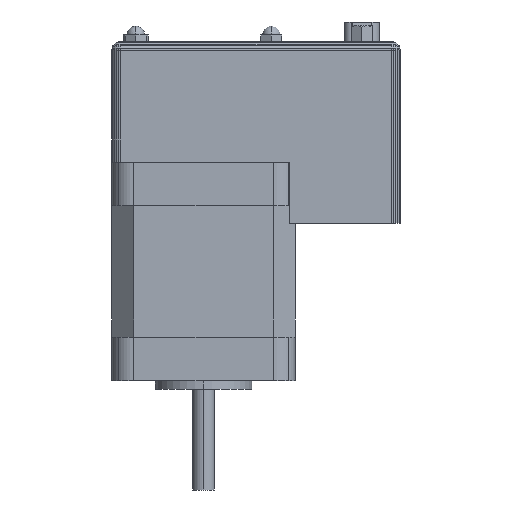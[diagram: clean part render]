
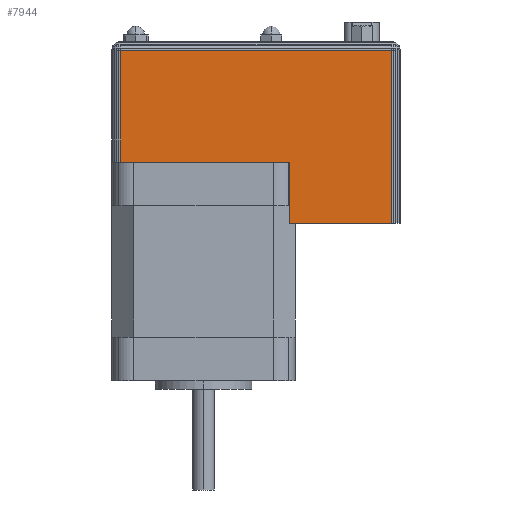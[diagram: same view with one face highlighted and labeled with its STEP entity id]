
A CAD part, left-side view. The second image highlights one B-rep face of the part: STEP entity #7944.
In plain terms, the highlighted planar face has unit normal (-1, 0, 0).
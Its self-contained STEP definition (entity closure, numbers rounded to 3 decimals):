
#7944=ADVANCED_FACE('',(#15018),#15019,.F.);
#15018=FACE_OUTER_BOUND('',#31377,.T.);
#15019=PLANE('',#31378);
#31377=EDGE_LOOP('',(#43701,#43702,#43703,#43704,#43705,#43706));
#31378=AXIS2_PLACEMENT_3D('',#43707,#43708,#43709);
#43701=ORIENTED_EDGE('',*,*,#47703,.T.);
#43702=ORIENTED_EDGE('',*,*,#48138,.F.);
#43703=ORIENTED_EDGE('',*,*,#48035,.F.);
#43704=ORIENTED_EDGE('',*,*,#47936,.F.);
#43705=ORIENTED_EDGE('',*,*,#47878,.F.);
#43706=ORIENTED_EDGE('',*,*,#47442,.T.);
#43707=CARTESIAN_POINT('',(-21.0,-14.666,22.466));
#43708=DIRECTION('',(1.0,0.0,0.0));
#43709=DIRECTION('',(0.0,0.0,-1.0));
#47442=EDGE_CURVE('',#50528,#50526,#50529,.T.);
#47703=EDGE_CURVE('',#50526,#50838,#50840,.T.);
#47878=EDGE_CURVE('',#50528,#51039,#51040,.T.);
#47936=EDGE_CURVE('',#51039,#51109,#51110,.T.);
#48035=EDGE_CURVE('',#51109,#51232,#51233,.T.);
#48138=EDGE_CURVE('',#51232,#50838,#51341,.T.);
#50526=VERTEX_POINT('',#54612);
#50528=VERTEX_POINT('',#54615);
#50529=LINE('',#54616,#54617);
#50838=VERTEX_POINT('',#55066);
#50840=LINE('',#55069,#55070);
#51039=VERTEX_POINT('',#55343);
#51040=LINE('',#55344,#55345);
#51109=VERTEX_POINT('',#55439);
#51110=LINE('',#55440,#55441);
#51232=VERTEX_POINT('',#55635);
#51233=LINE('',#55636,#55637);
#51341=LINE('',#55775,#55776);
#54612=CARTESIAN_POINT('',(-21.0,19.0,39.6));
#54615=CARTESIAN_POINT('',(-21.0,-43.0,39.6));
#54616=CARTESIAN_POINT('',(-21.0,-43.0,39.6));
#54617=VECTOR('',#57219,1.0);
#55066=CARTESIAN_POINT('',(-21.0,19.0,14.0));
#55069=CARTESIAN_POINT('',(-21.0,19.0,39.6));
#55070=VECTOR('',#57362,1.0);
#55343=CARTESIAN_POINT('',(-21.0,-43.0,0.));
#55344=CARTESIAN_POINT('',(-21.0,-43.0,39.6));
#55345=VECTOR('',#57461,1.0);
#55439=CARTESIAN_POINT('',(-21.0,-19.7,0.));
#55440=CARTESIAN_POINT('',(-21.0,-43.0,0.));
#55441=VECTOR('',#57493,1.0);
#55635=CARTESIAN_POINT('',(-21.0,-19.7,14.0));
#55636=CARTESIAN_POINT('',(-21.0,-19.7,0.));
#55637=VECTOR('',#57575,1.0);
#55775=CARTESIAN_POINT('',(-21.0,-19.7,14.0));
#55776=VECTOR('',#57612,1.0);
#57219=DIRECTION('',(0.0,1.0,0.0));
#57362=DIRECTION('',(0.0,0.0,-1.0));
#57461=DIRECTION('',(0.0,0.0,-1.0));
#57493=DIRECTION('',(0.0,1.0,0.0));
#57575=DIRECTION('',(0.0,0.0,1.0));
#57612=DIRECTION('',(0.0,1.0,0.0));
